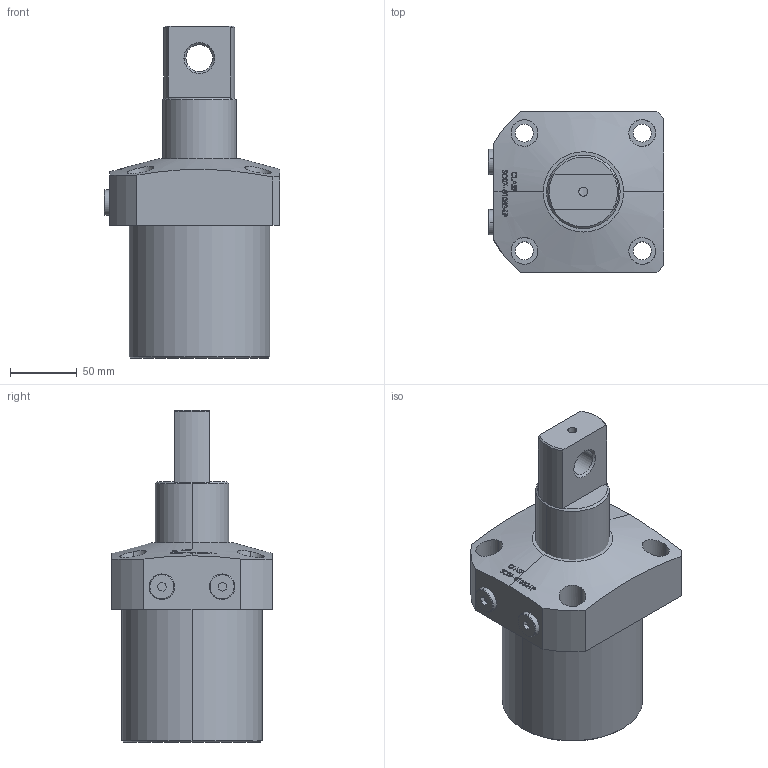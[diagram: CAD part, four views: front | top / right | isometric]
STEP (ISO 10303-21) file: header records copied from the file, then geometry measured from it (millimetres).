
FILE_DESCRIPTION (( 'STEP AP203' ), '1' );
FILE_NAME ('SC07-01052-LP.STEP', '2022-07-08T17:00:19', ( '' ), ( '' ), 'SwSTEP 2.0', 'SolidWorks 2017', '' );
FILE_SCHEMA (( 'CONFIG_CONTROL_DESIGN' ));
Length unit declared in the file: millimetre
Products named in the file (4): SC-07-01052-LP BODY; SC-07-01052-LP-Piston; SC-07-01052-LP-05 plug; SC07-01052-LP
Assembly tree (4 placements, depth 2):
  SC07-01052-LP
    SC-07-01052-LP BODY
    SC-07-01052-LP-Piston
    SC-07-01052-LP-05 plug  x2
Bounding box: 131 x 120 x 248 mm (x, y, z)
Volume: 1711164.4 mm3; surface area: 118199.7 mm2
Topology: 4 solids, 4 shells, 328 faces, 823 edges, 543 vertices
Faces by surface type: plane 148, bspline 101, cylinder 51, cone 28
Entity records: 15871 total; most frequent: CARTESIAN_POINT 8680, ORIENTED_EDGE 1582, DIRECTION 1021, EDGE_CURVE 791, VERTEX_POINT 523, VECTOR 369, LINE 369, EDGE_LOOP 364
